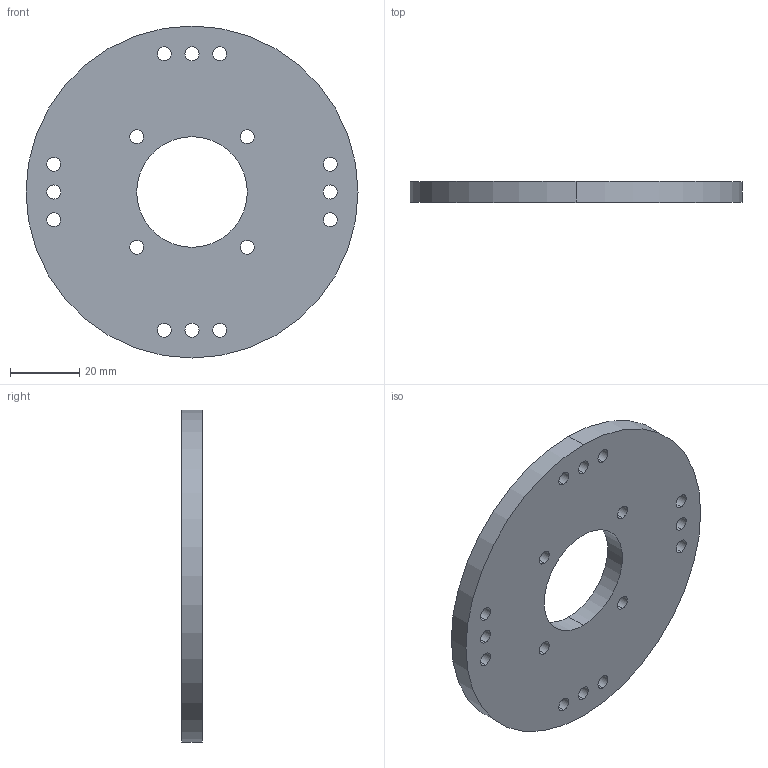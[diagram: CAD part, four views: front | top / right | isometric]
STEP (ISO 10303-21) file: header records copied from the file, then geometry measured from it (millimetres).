
FILE_DESCRIPTION (( 'STEP AP203' ), '1' );
FILE_NAME ('1920-0032-0096.STEP', '2021-05-27T18:33:29', ( '' ), ( '' ), 'SwSTEP 2.0', 'SolidWorks 2016', '' );
FILE_SCHEMA (( 'CONFIG_CONTROL_DESIGN' ));
Length unit declared in the file: millimetre
Products named in the file (1): 1920-0032-0096
Bounding box: 96 x 6 x 96 mm (x, y, z)
Volume: 37367.2 mm3; surface area: 16089.9 mm2
Topology: 1 solids, 1 shells, 38 faces, 108 edges, 72 vertices
Faces by surface type: cylinder 36, plane 2
Entity records: 1429 total; most frequent: DIRECTION 258, CARTESIAN_POINT 219, ORIENTED_EDGE 216, AXIS2_PLACEMENT_3D 111, EDGE_CURVE 108, VERTEX_POINT 72, CIRCLE 72, EDGE_LOOP 72
